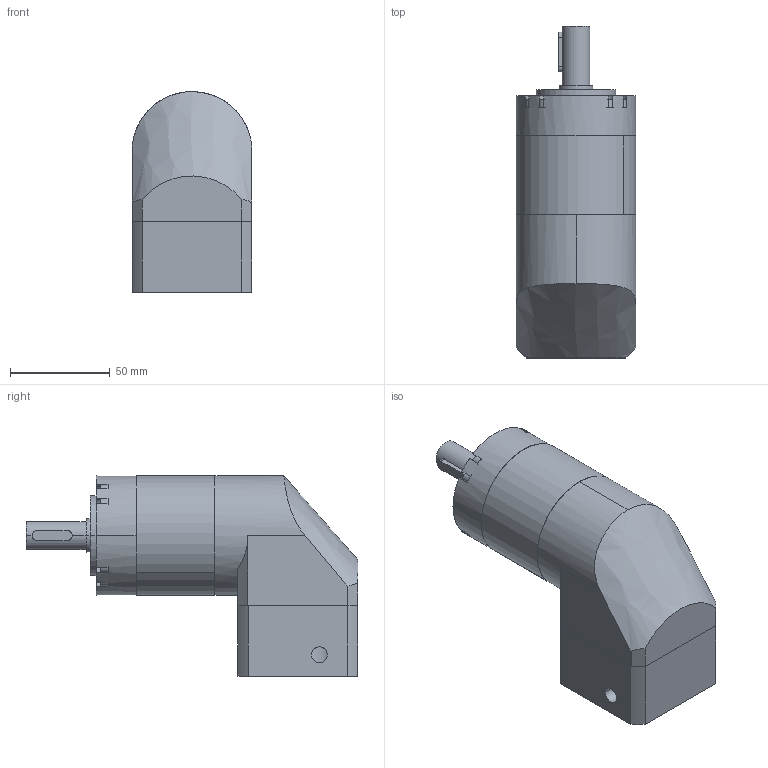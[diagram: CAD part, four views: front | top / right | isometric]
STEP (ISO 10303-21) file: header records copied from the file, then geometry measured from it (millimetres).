
FILE_DESCRIPTION (( 'STEP AP214' ), '1' );
FILE_NAME ('PER-060-L2-S2-P2 14-50-70-M5.STEP', '2023-08-30T01:57:11', ( '微软用户' ), ( '微软中国' ), 'SwSTEP 2.0', 'SolidWorks 2018', '' );
FILE_SCHEMA (( 'AUTOMOTIVE_DESIGN' ));
Length unit declared in the file: millimetre
Products named in the file (9): PER060-薊粣; PER060-眊极_揤翉; 邧埴瑩  5x5x20; PER060內齿圈_二级内齿圈; PER060 奻屳唳; 双列角接触球轴承 5203_2; PER-060-L2-S2-P2 14-50-70-M5; 囀鞠褒蹟佪-M5℅16; PER060-蟀諉啣
Assembly tree (8 placements, depth 2):
  PER-060-L2-S2-P2 14-50-70-M5
    PER060 奻屳唳
    PER060-薊粣
    双列角接触球轴承 5203_2
    PER060-蟀諉啣
    囀鞠褒蹟佪-M5℅16
    邧埴瑩  5x5x20
    PER060-眊极_揤翉
    PER060內齿圈_二级内齿圈
Bounding box: 60 x 166 x 100.5 mm (x, y, z)
Volume: 457290.5 mm3; surface area: 95756.4 mm2
Topology: 8 solids, 8 shells, 529 faces, 1459 edges, 940 vertices
Faces by surface type: cylinder 197, plane 168, bspline 125, cone 39
Entity records: 26077 total; most frequent: CARTESIAN_POINT 7200, ORIENTED_EDGE 2834, DIRECTION 2548, EDGE_CURVE 1417, AXIS2_PLACEMENT_3D 1028, VERTEX_POINT 932, EDGE_LOOP 617, CIRCLE 613
